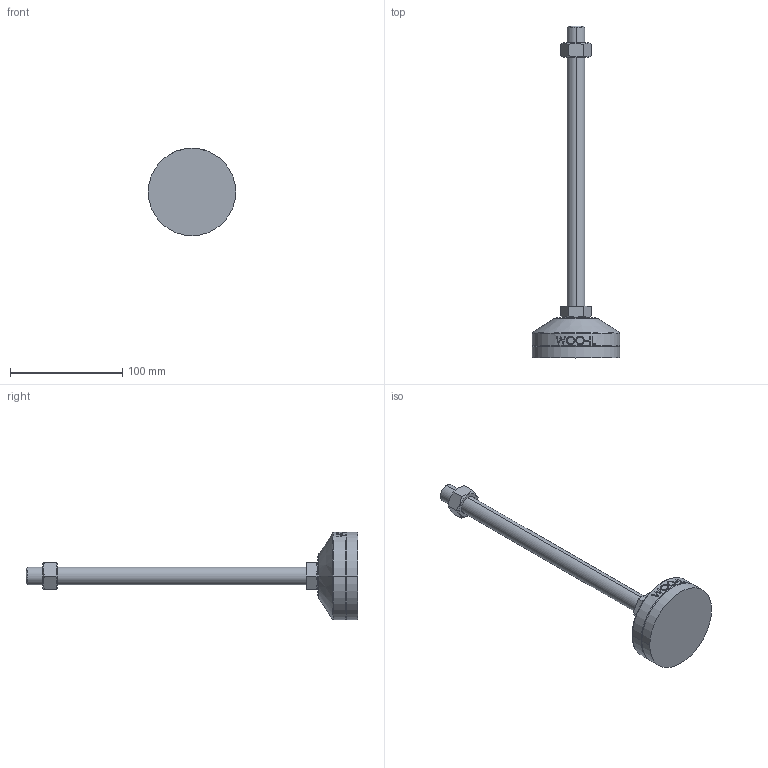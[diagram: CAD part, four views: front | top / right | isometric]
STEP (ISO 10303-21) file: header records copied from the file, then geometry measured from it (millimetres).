
FILE_DESCRIPTION (( 'STEP AP214' ), '1' );
FILE_NAME ('MFR78-M16-250.step', '2021-01-13T05:37:58', ( '' ), ( '' ), 'SwSTEP 2.0', 'SolidWorks 2019', '' );
FILE_SCHEMA (( 'AUTOMOTIVE_DESIGN' ));
Length unit declared in the file: millimetre
Products named in the file (2): MFR78-M16-250
Bounding box: 78 x 296 x 78 mm (x, y, z)
Volume: 202206.1 mm3; surface area: 41839.4 mm2
Topology: 4 solids, 4 shells, 103 faces, 235 edges, 150 vertices
Faces by surface type: plane 49, cylinder 18, bspline 16, cone 14, torus 6
Entity records: 4435 total; most frequent: CARTESIAN_POINT 2162, ORIENTED_EDGE 470, DIRECTION 417, EDGE_CURVE 235, AXIS2_PLACEMENT_3D 159, VERTEX_POINT 150, EDGE_LOOP 115, ADVANCED_FACE 103
